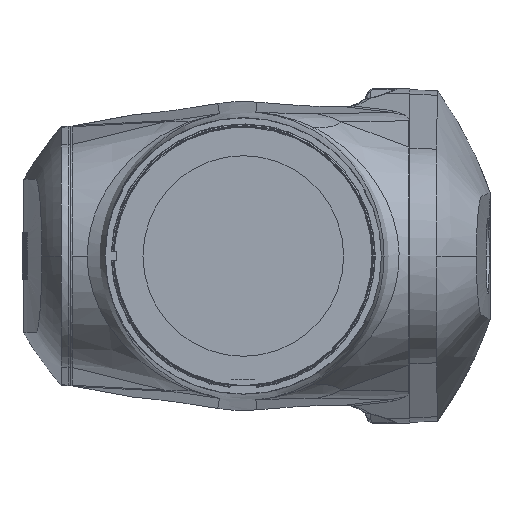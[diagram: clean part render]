
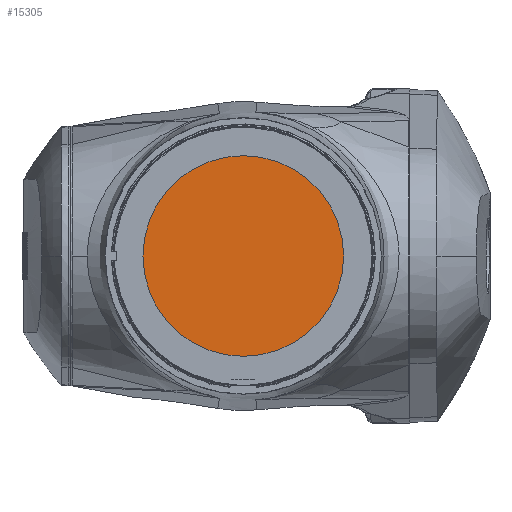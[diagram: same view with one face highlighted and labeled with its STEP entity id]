
A CAD part, left-side view. The second image highlights one B-rep face of the part: STEP entity #15305.
In plain terms, the highlighted planar face has unit normal (-1, 0, 0).
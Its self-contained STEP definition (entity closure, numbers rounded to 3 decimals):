
#2615 = FACE_OUTER_BOUND ( 'NONE', #17226, .T. ) ;
#3383 = AXIS2_PLACEMENT_3D ( 'NONE', #43021, #24885, #7432 ) ;
#4561 = DIRECTION ( 'NONE',  ( -1., 0., 0. ) ) ;
#6560 = PLANE ( 'NONE',  #12400 ) ;
#7432 = DIRECTION ( 'NONE',  ( 0., -1., 0. ) ) ;
#12400 = AXIS2_PLACEMENT_3D ( 'NONE', #34081, #31063, #33857 ) ;
#14944 = AXIS2_PLACEMENT_3D ( 'NONE', #39695, #4561, #25898 ) ;
#15305 = ADVANCED_FACE ( 'NONE', ( #2615 ), #6560, .T. ) ;
#17226 = EDGE_LOOP ( 'NONE', ( #17240, #23491 ) ) ;
#17240 = ORIENTED_EDGE ( 'NONE', *, *, #31114, .T. ) ;
#20361 = EDGE_CURVE ( 'NONE', #23108, #21329, #43531, .T. ) ;
#21329 = VERTEX_POINT ( 'NONE', #28826 ) ;
#23108 = VERTEX_POINT ( 'NONE', #27784 ) ;
#23491 = ORIENTED_EDGE ( 'NONE', *, *, #20361, .T. ) ;
#24885 = DIRECTION ( 'NONE',  ( -1., 0., 0. ) ) ;
#25898 = DIRECTION ( 'NONE',  ( 0., -1., 0. ) ) ;
#27784 = CARTESIAN_POINT ( 'NONE',  ( 187., 85., 2150. ) ) ;
#28826 = CARTESIAN_POINT ( 'NONE',  ( 187., -85., 2150. ) ) ;
#31063 = DIRECTION ( 'NONE',  ( -1., 0., 0. ) ) ;
#31114 = EDGE_CURVE ( 'NONE', #21329, #23108, #43788, .T. ) ;
#33857 = DIRECTION ( 'NONE',  ( 0., -1., 0. ) ) ;
#34081 = CARTESIAN_POINT ( 'NONE',  ( 187., 0., 2150. ) ) ;
#39695 = CARTESIAN_POINT ( 'NONE',  ( 187., 0., 2150. ) ) ;
#43021 = CARTESIAN_POINT ( 'NONE',  ( 187., 0., 2150. ) ) ;
#43531 = CIRCLE ( 'NONE', #14944, 85. ) ;
#43788 = CIRCLE ( 'NONE', #3383, 85. ) ;
